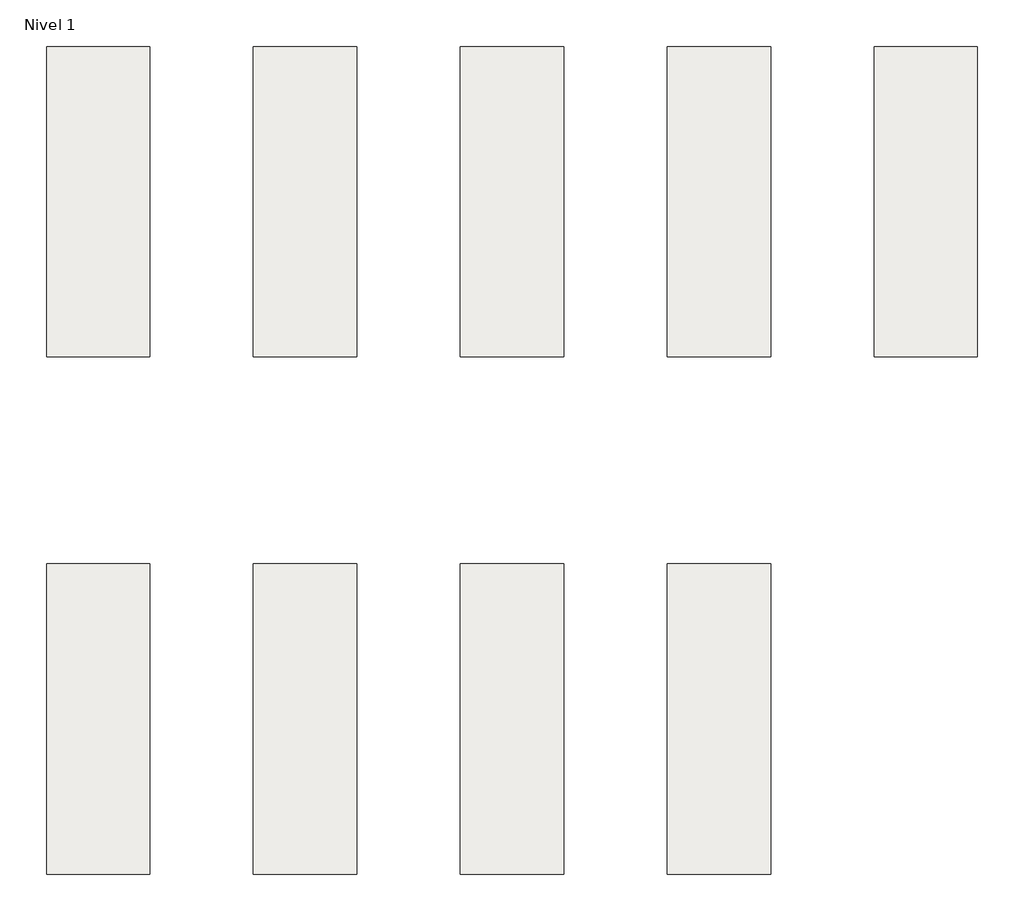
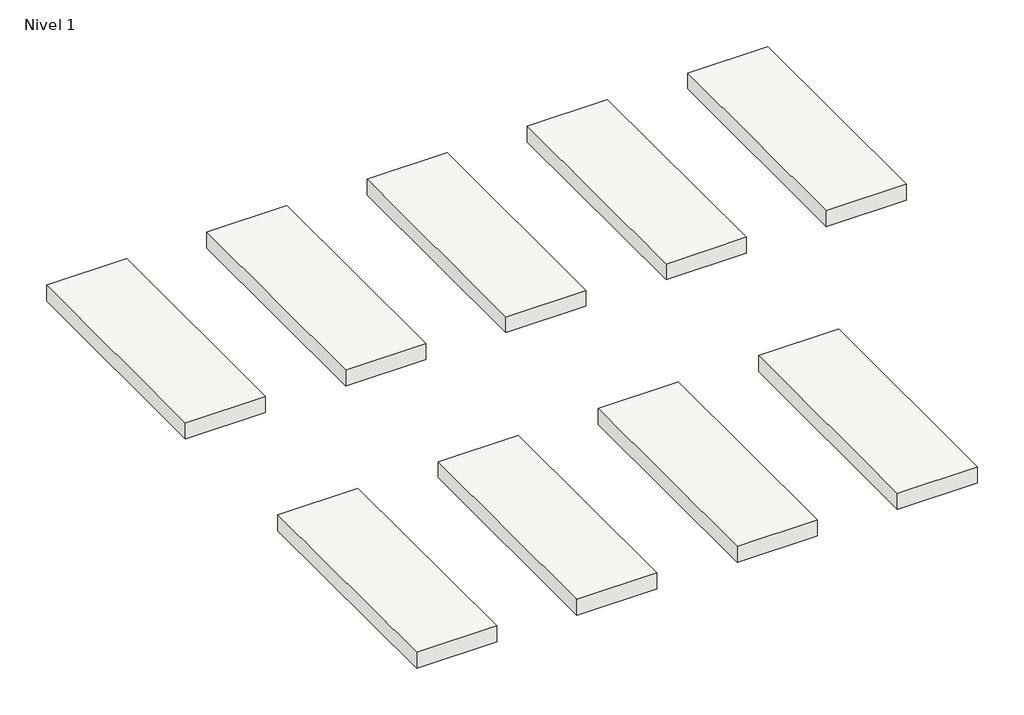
# One storey: 9 slabs.
"""IFC4 building model written with IfcOpenShell, lengths in millimetres."""

from ifc_helpers import new_model, si_unit, frame, origin, place, context, project, spatial, polyline, outline, extrude, element, save

model = new_model("IFC4")

# Units and contexts
model_context = context("Model", 3, world=origin())
ifc_project = project(units=[si_unit("LENGTHUNIT", "METRE", prefix="MILLI")], contexts=[model_context])

# Site, building, storey
site = spatial("IfcSite", under=ifc_project)
building = spatial("IfcBuilding", under=site)
storey = spatial("IfcBuildingStorey", under=building, Name="Nivel 1", Elevation=0.0)

# Slabs
placement = place(None, origin())
element("IfcSlab", 1, ObjectType="Montecarlo Blanco 30X90", at=placement, inside=storey, context=model_context, shape_type="SweptSolid", body=[
    extrude(outline(polyline([(0.0, 900.0), (300.0, 900.0), (300.0, 0.0), (0.0, 0.0), (0.0, 900.0)])), frame((0.0, 0.0, -63.0), z_axis=(0.0, 0.0, 1.0), x_axis=(1.0, 0.0, 0.0)), (0.0, 0.0, 1.0), 63.0),
])
element("IfcSlab", 2, ObjectType="Montecarlo Marfil 30X90", at=placement, inside=storey, context=model_context, shape_type="SweptSolid", body=[
    extrude(outline(polyline([(600.0, 900.0), (900.0, 900.0), (900.0, 0.0), (600.0, 0.0), (600.0, 900.0)])), frame((0.0, 0.0, -63.0), z_axis=(0.0, 0.0, 1.0), x_axis=(1.0, 0.0, 0.0)), (0.0, 0.0, 1.0), 63.0),
])
element("IfcSlab", 3, ObjectType="Montecarlo Perla 30X90", at=placement, inside=storey, context=model_context, shape_type="SweptSolid", body=[
    extrude(outline(polyline([(1200.0, 900.0), (1500.0, 900.0), (1500.0, 0.0), (1200.0, 0.0), (1200.0, 900.0)])), frame((0.0, 0.0, -63.0), z_axis=(0.0, 0.0, 1.0), x_axis=(1.0, 0.0, 0.0)), (0.0, 0.0, 1.0), 63.0),
])
element("IfcSlab", 4, ObjectType="Niza Blanco 30X90", at=placement, inside=storey, context=model_context, shape_type="SweptSolid", body=[
    extrude(outline(polyline([(1800.0, 900.0), (2100.0, 900.0), (2100.0, 0.0), (1800.0, 0.0), (1800.0, 900.0)])), frame((0.0, 0.0, -63.0), z_axis=(0.0, 0.0, 1.0), x_axis=(1.0, 0.0, 0.0)), (0.0, 0.0, 1.0), 63.0),
])
element("IfcSlab", 5, ObjectType="Niza Marfil 30X90", at=placement, inside=storey, context=model_context, shape_type="SweptSolid", body=[
    extrude(outline(polyline([(2400.0, 900.0), (2700.0, 900.0), (2700.0, 0.0), (2400.0, 0.0), (2400.0, 900.0)])), frame((0.0, 0.0, -63.0), z_axis=(0.0, 0.0, 1.0), x_axis=(1.0, 0.0, 0.0)), (0.0, 0.0, 1.0), 63.0),
])
element("IfcSlab", 6, ObjectType="Niza Perla 30X90", at=placement, inside=storey, context=model_context, shape_type="SweptSolid", body=[
    extrude(outline(polyline([(0.0, -600.0), (300.0, -600.0), (300.0, -1500.0), (0.0, -1500.0), (0.0, -600.0)])), frame((0.0, 0.0, -63.0), z_axis=(0.0, 0.0, 1.0), x_axis=(1.0, 0.0, 0.0)), (0.0, 0.0, 1.0), 63.0),
])
element("IfcSlab", 7, ObjectType="Saint Tropez Blanco 30X90", at=placement, inside=storey, context=model_context, shape_type="SweptSolid", body=[
    extrude(outline(polyline([(600.0, -600.0), (900.0, -600.0), (900.0, -1500.0), (600.0, -1500.0), (600.0, -600.0)])), frame((0.0, 0.0, -63.0), z_axis=(0.0, 0.0, 1.0), x_axis=(1.0, 0.0, 0.0)), (0.0, 0.0, 1.0), 63.0),
])
element("IfcSlab", 8, ObjectType="Saint Tropez Marfil 30X90", at=placement, inside=storey, context=model_context, shape_type="SweptSolid", body=[
    extrude(outline(polyline([(1200.0, -600.0), (1500.0, -600.0), (1500.0, -1500.0), (1200.0, -1500.0), (1200.0, -600.0)])), frame((0.0, 0.0, -63.0), z_axis=(0.0, 0.0, 1.0), x_axis=(1.0, 0.0, 0.0)), (0.0, 0.0, 1.0), 63.0),
])
element("IfcSlab", 9, ObjectType="Saint Tropez Perla 30X90", at=placement, inside=storey, context=model_context, shape_type="SweptSolid", body=[
    extrude(outline(polyline([(1800.0, -600.0), (2100.0, -600.0), (2100.0, -1500.0), (1800.0, -1500.0), (1800.0, -600.0)])), frame((0.0, 0.0, -63.0), z_axis=(0.0, 0.0, 1.0), x_axis=(1.0, 0.0, 0.0)), (0.0, 0.0, 1.0), 63.0),
])

save(model, "model.ifc")
